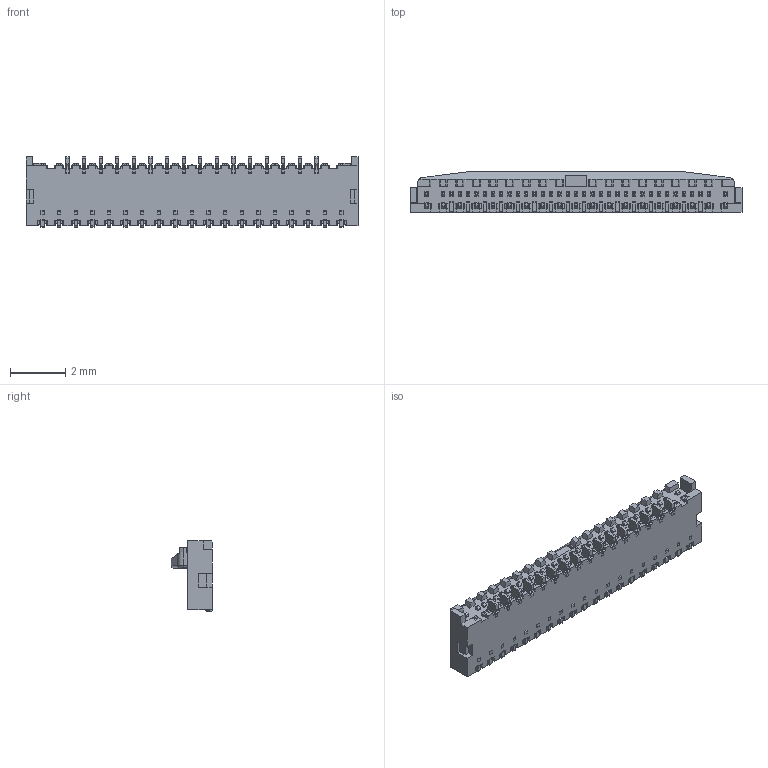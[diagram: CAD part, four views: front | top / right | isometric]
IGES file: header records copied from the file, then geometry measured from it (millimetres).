
Start section: SolidWorks IGES file using analytic representation for surfaces
Global section: file name: C:\Users\83197\OneDrive - I-PEX\デスクトップ\Exported\20599-033E-01C LK TYPE ACT OPEN IGES R1 ALL.IGS; native system: SolidWorks 2023; preprocessor: SolidWorks 2023; author: 83197; date: 251117.134320; units: millimetre
Bounding box: 12 x 1.5 x 2.55 mm (x, y, z)
Surface area: 113.5 mm2 (no closed solid volume)
Topology: 0 solids, 0 shells, 1972 faces, 11804 edges, 11802 vertices
Faces by surface type: bspline 1657, revolution 315
